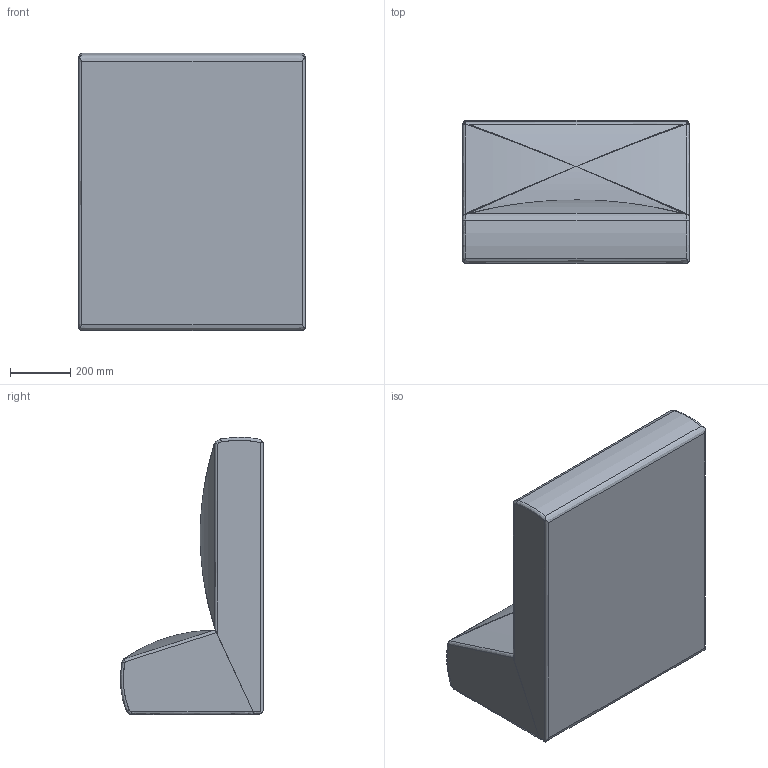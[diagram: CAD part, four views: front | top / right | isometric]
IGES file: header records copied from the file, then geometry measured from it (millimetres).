
Start section: SolidWorks IGES file using analytic representation for surfaces
Global section: file name: \\Logicserver\datos\01-VICCARBE\PRODUCTOS\53-SISTEMA\04-MODELADOS (PLANOS)\WEB\viccarbe-sistema-3D\Modulos\Modulo bajo fino.IGS; native system: SolidWorks 2013; preprocessor: SolidWorks 2013; author: bdisenyo; date: 170120.110431; units: millimetre
Bounding box: 750 x 474.77 x 919.37 mm (x, y, z)
Surface area: 2872541.7 mm2 (no closed solid volume)
Topology: 0 solids, 0 shells, 52 faces, 692 edges, 684 vertices
Faces by surface type: bspline 29, revolution 23
